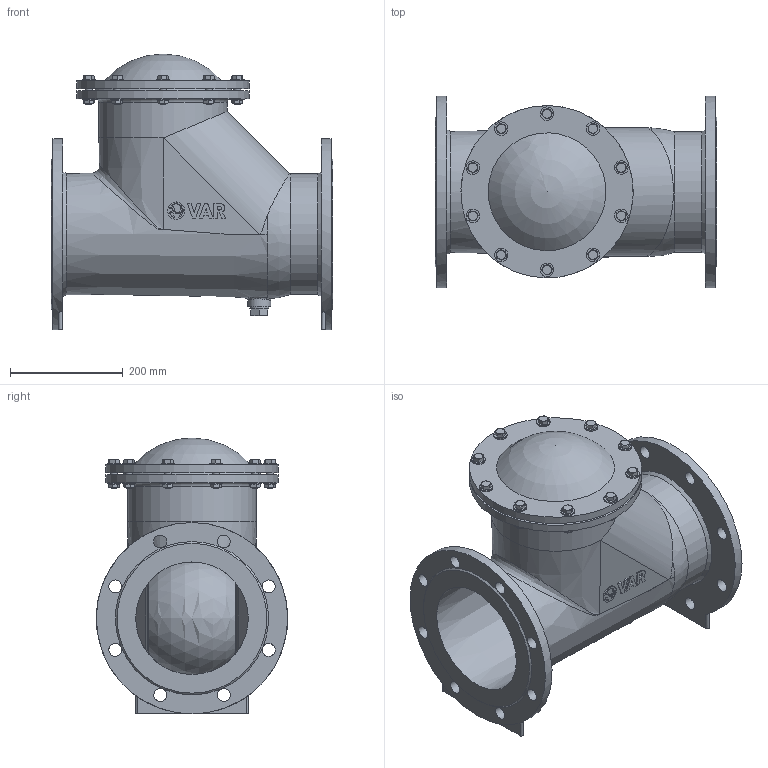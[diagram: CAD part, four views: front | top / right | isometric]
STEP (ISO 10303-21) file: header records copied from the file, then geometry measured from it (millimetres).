
FILE_DESCRIPTION(('STEP AP203'), '1');
FILE_NAME('Øàðîâîé îáðàòíûé êëàïàí VAG KRV', '', ('UNSPECIFIED'), ('UNSPECIFIED'), 'C3D Converter', 'C3D Toolkit', '');
FILE_SCHEMA(('CONFIG_CONTROL_DESIGN'));
Length unit declared in the file: millimetre
Assembly tree (46 placements, depth 2):
  (unnamed)
    (unnamed)
    (unnamed)
    (unnamed)
    (unnamed)
    (unnamed)
    (unnamed)  x10
    (unnamed)  x10
    (unnamed)  x10
    (unnamed)  x10
    (unnamed)
Bounding box: 500 x 340 x 490 mm (x, y, z)
Volume: 12040517.9 mm3; surface area: 1770172.8 mm2
Topology: 47 solids, 48 shells, 733 faces, 1836 edges, 1241 vertices
Faces by surface type: plane 365, extrusion 136, cylinder 121, cone 75, torus 14, bspline 13, sphere 9
Full cylindrical faces by diameter (mm): 10.106 x10, 12 x10, 13 x20, 14 x20, 20 x2, 21 x1, 23 x16, 24 x20, 28.19 x1, 30.838 x1, 34 x1, 41 x1, 200 x1, 214 x2, 228 x1, 306 x2, 340 x2
Entity records: 22036 total; most frequent: CARTESIAN_POINT 8784, ORIENTED_EDGE 2046, DIRECTION 1656, EDGE_CURVE 1023, VERTEX_POINT 717, EDGE_LOOP 617, VECTOR 600, AXIS2_PLACEMENT_3D 528
